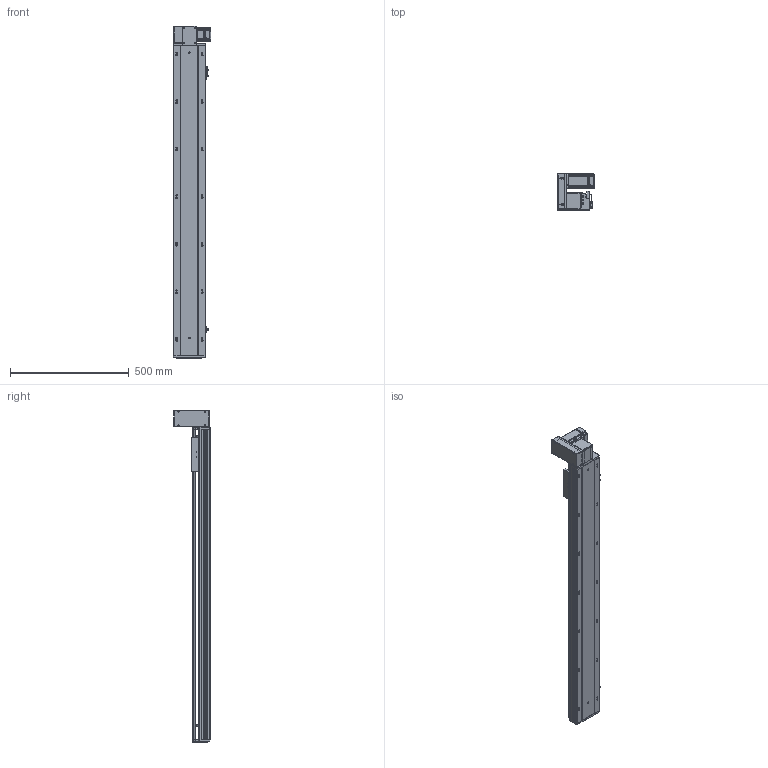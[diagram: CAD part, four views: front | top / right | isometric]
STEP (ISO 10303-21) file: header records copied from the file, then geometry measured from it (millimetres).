
FILE_DESCRIPTION (( 'STEP AP203' ), '1' );
FILE_NAME ('RY140-T-300-UL.SLDASM_1050.step', '2021-03-01T07:43:54', ( '盈信电脑' ), ( '东莞市道滘镇水果街19号' ), 'SwSTEP 2.0', 'SolidWorks 2012', '' );
FILE_SCHEMA (( 'CONFIG_CONTROL_DESIGN' ));
Products named in the file (18): 15; 侂狟400W侜督萇儂; RY120-T主同步轮轴承压盖; RY120-T蹟翐M4; RY120-T肮祭湍揤踡輸1; RY140-T萇儂假蚾啣; RY140-T翋肮祭謫盓傅釱; 覜茼ん672; RY140綴裔啣; RY120外置感应片(140共用）; RY120-T肮祭湍揤踡輸2; RY140-T-300-DL倰第奻裔啣_1050; RY140肮祭謫臏賑輸; RY140-T-300-DL倰第菁釱_1050; 滅袉蝶18-10; RY140-T翋肮謫裔啣; RY140-T萇儂欶; RY140-T-300-UL.SLDASM_1050
Assembly tree (23 placements, depth 3):
  RY140-T-300-UL.SLDASM_1050
    RY140-T-300-DL倰第菁釱_1050
    RY140肮祭謫臏賑輸
    RY140-T-300-DL倰第奻裔啣_1050
    RY140綴裔啣
    覜茼ん672  x3
    RY120外置感应片(140共用）
    RY120-T肮祭湍揤踡輸2
    RY120-T肮祭湍揤踡輸1
    RY140-T翋肮祭謫盓傅釱
    RY140-T萇儂假蚾啣
    侂狟400W侜督萇儂
      15
    RY120-T主同步轮轴承压盖
    RY120-T蹟翐M4  x4
    RY140-T萇儂欶
    滅袉蝶18-10  x2
    RY140-T翋肮謫裔啣
Bounding box: 157 x 152.5 x 1396 mm (x, y, z)
Volume: 4117547.7 mm3; surface area: 1572955.3 mm2
Topology: 22 solids, 22 shells, 2671 faces, 7297 edges, 4678 vertices
Faces by surface type: plane 1381, cylinder 968, cone 222, bspline 100
Entity records: 84271 total; most frequent: CARTESIAN_POINT 20511, ORIENTED_EDGE 13074, DIRECTION 12457, EDGE_CURVE 6537, VERTEX_POINT 4277, VECTOR 4201, LINE 4201, AXIS2_PLACEMENT_3D 4128
